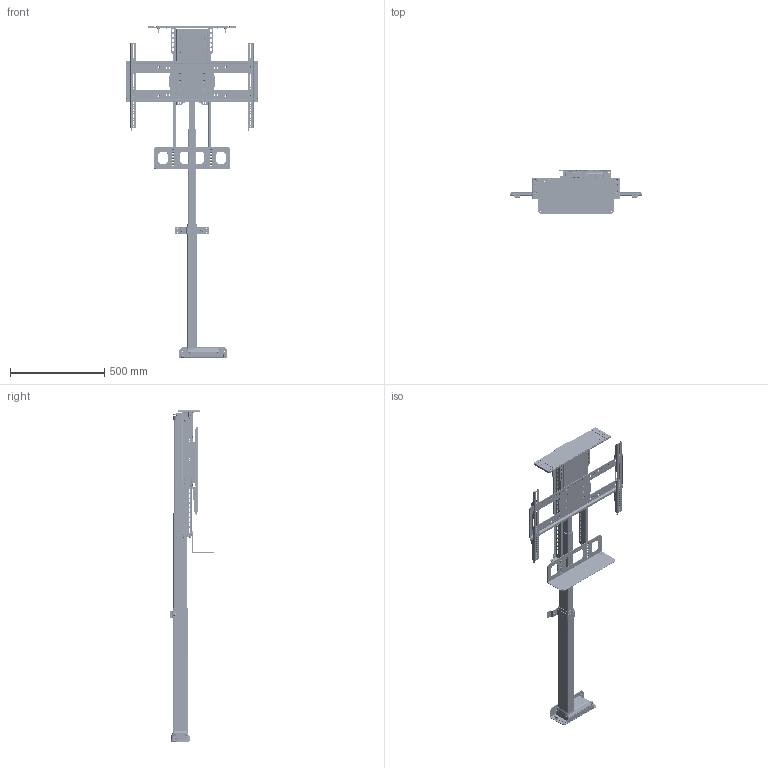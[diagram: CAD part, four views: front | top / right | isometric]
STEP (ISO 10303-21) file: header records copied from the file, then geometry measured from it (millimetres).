
FILE_DESCRIPTION(/* description */ ('STEP AP242','CAx-IF Rec.Pracs.---Representation and Presentation of Product Manufacturing Information (PMI)---4.0---2014-10-13','CAx-IF Rec.Pracs.---3D Tessellated Geometry---0.4---2014-09-14','2;1'),/* implementation_level */ '2;1');
FILE_NAME(/* name */ '63f8fa58155145463c398447',/* time_stamp */ '2023-02-24T17:56:46+00:00',/* author */ (''),/* organization */ (''),/* preprocessor_version */ 'ST-DEVELOPER v18.102',/* originating_system */ ' ',/* authorisation */ ' ');
FILE_SCHEMA (('AP242_MANAGED_MODEL_BASED_3D_ENGINEERING_MIM_LF { 1 0 10303 442 1 1 4 }'));
Products named in the file (67): L-65/s; Hex socket countersunk head screw M6x1 x 12; Socket button head screw M6x1 x 12; WDS8151-215; Universal Swivel Master Assembly <1>; Socket button head screw M6x1 x 10; SW-NE-005 - SWIVEL TOP PLATE; NEX-SW-001 - DL16 SWIVEL BOTTOM SPACER; SW-NE-002 - SWIVEL BOTTOM PLATE; ULS-NX-011 - ULS ACCESSORY MOUNTING BRACKET SPACER <2>; ULS-NX-011 - UL ACCESSORY MOUNTING BRACKET SPACER; PRODUCT_NAME_1; ULS Accessories <1>; ULS-NX-010 - ULS ACCESSORY MOUNTING BRACKET W PEMS <2>; PEM CLS-M6-2  ; ULS-NX-010 - UL ACCESSORY MOUNTING BRACKET; NEX-LM-013 - CENTER CHANNEL MOUNT - REV B; ULS-NX-010 - ULS ACCESSORY MOUNTING BRACKET W PEMS <1>; ULS-NX-108 - ULS SCREEN SUPPORT WELDMENT <1>; PEM CLS-M6-1  ; F-M6-3 M6 PEM NUT; ULS-NX-008 - UL SCREEN SUPPORT SHELL; ULS-NX-009 - ULS SCREEN SUPPORT TOP PLATE <1>; ULS-NX-009 - UL SCREEN SUPPORT TOP PLATE; Lid Plate Assembly W/ Lid Supports <1>; ULS-NX-012 - ULS LID SUPPORT W PEMS <1>; UL LID SUPPORT (ULS-NX-012); ULS-NX-012 - ULS LID SUPPORT W PEMS <2>; LID-FL-ULS - ULS Lid Plate Assembly <1>; ULS-NX-006 - Lid Adapter W/ Pin <1>; OLD_ULS-NX-006 - UL LID ADAPTER <1>; ULS-NX-006 - UL LID ADAPTER; FHS-273-24 PEM; FL Sub Asm <1>; 97069A106_Zinc-Plated Steel Spring Lock Washer; Plain washer large grade A M6; Hex socket countersunk head screw M6x1 x 8; ULS-NX-007 - UL LID PLATE EXTENDER; Hex nut grade C M6x1; NEX-LM-032 LID PIN GUIDE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
Assembly tree (200 placements, depth 6):
  L-65/s
    Hex socket countersunk head screw M6x1 x 12  x16
    Socket button head screw M6x1 x 12  x16
    WDS8151-215  x4
    Universal Swivel Master Assembly <1>
      Socket button head screw M6x1 x 10  x4
      SW-NE-005 - SWIVEL TOP PLATE
      NEX-SW-001 - DL16 SWIVEL BOTTOM SPACER
      SW-NE-002 - SWIVEL BOTTOM PLATE
    ULS-NX-011 - ULS ACCESSORY MOUNTING BRACKET SPACER <2>
      ULS-NX-011 - UL ACCESSORY MOUNTING BRACKET SPACER
      PRODUCT_NAME_1  x2
    ULS Accessories <1>
      ULS-NX-010 - ULS ACCESSORY MOUNTING BRACKET W PEMS <2>
        PEM CLS-M6-2    x4
        ULS-NX-010 - UL ACCESSORY MOUNTING BRACKET
      NEX-LM-013 - CENTER CHANNEL MOUNT - REV B
      ULS-NX-010 - ULS ACCESSORY MOUNTING BRACKET W PEMS <1>
        PEM CLS-M6-2    x4
        ULS-NX-010 - UL ACCESSORY MOUNTING BRACKET
    ULS-NX-108 - ULS SCREEN SUPPORT WELDMENT <1>
      PEM CLS-M6-1    x32
      F-M6-3 M6 PEM NUT
      ULS-NX-008 - UL SCREEN SUPPORT SHELL
      ULS-NX-009 - ULS SCREEN SUPPORT TOP PLATE <1>
        PEM CLS-M6-1    x4
        ULS-NX-009 - UL SCREEN SUPPORT TOP PLATE
    Lid Plate Assembly W/ Lid Supports <1>
      ULS-NX-012 - ULS LID SUPPORT W PEMS <1>
        PEM CLS-M6-2    x2
        UL LID SUPPORT (ULS-NX-012)
      ULS-NX-012 - ULS LID SUPPORT W PEMS <2>
        PEM CLS-M6-2    x2
        UL LID SUPPORT (ULS-NX-012)
      LID-FL-ULS - ULS Lid Plate Assembly <1>
        ULS-NX-006 - Lid Adapter W/ Pin <1>
          OLD_ULS-NX-006 - UL LID ADAPTER <1>
            ULS-NX-006 - UL LID ADAPTER
            FHS-273-24 PEM  x2
        FL Sub Asm <1>
          97069A106_Zinc-Plated Steel Spring Lock Washer  x4
          Plain washer large grade A M6  x4
          Hex socket countersunk head screw M6x1 x 8  x4
          ULS-NX-007 - UL LID PLATE EXTENDER  x2
          Hex nut grade C M6x1  x4
          NEX-LM-032 LID PIN GUIDE  x2
          ULS-NX-005 - UL LID PLATE W PEMS <1>
            PEM CLS-M6-2    x8
            ULS-NX-005 - UL LID PLATE
            PEM FHS-M6-15    x4
    SBP & VMB <1>
      PZ Pan head screw M5x0.80 x 25  x2
      ULS-NX-017 - UL SCREEN BACK PLATE
      ULS-NX-118 - UL VMB WELDMENT <2>
        Socket button head cap screw #6-32 x 0.188  x2
        VMB Washer  x4
        ULS-NX-019 - UL LEVEL ADJUSTMENT PLATE
        PEM BSO-632-10  ZI  x2
        90107A012  x2
        ULS-NX-018 - UL VERICAL MOUNTING BAR
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Bounding box: 698.5 x 235.02 x 1760.38 mm (x, y, z)
Volume: 9313211.9 mm3; surface area: 2166855.5 mm2
Topology: 178 solids, 178 shells, 12345 faces, 32904 edges, 21348 vertices
Faces by surface type: plane 8616, cylinder 2132, cone 794, bspline 535, torus 222, sphere 46
Full cylindrical faces by diameter (mm): 1.778 x2, 2.642 x4, 3.505 x4, 4.6 x2, 4.917 x61, 4.978 x4, 5 x24, 5.004 x4, 5.026 x4, 5.08 x4, 5.277 x8, 5.3 x6, 5.385 x12, 5.41 x8, 5.486 x4, 5.499 x2, 5.6 x4, 5.613 x6, 5.944 x4, 5.994 x3, 6 x74, 6.095 x2, 6.35 x22, 6.4 x4, 6.528 x5, 6.6 x10, 6.604 x4, 6.655 x4, 6.934 x2, 6.976 x1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
Entity records: 109982 total; most frequent: CARTESIAN_POINT 20996, DIRECTION 17549, ORIENTED_EDGE 16810, EDGE_CURVE 8405, AXIS2_PLACEMENT_3D 6077, VERTEX_POINT 5631, LINE 5395, VECTOR 5395
